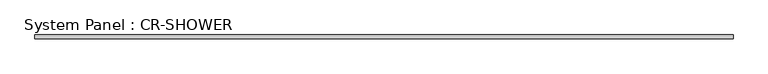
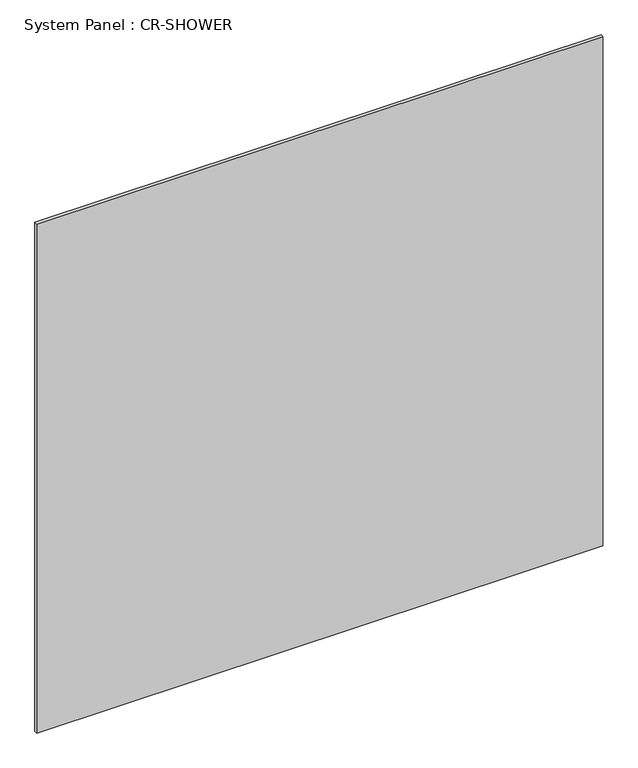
"""IFC4 building model written with IfcOpenShell, lengths in millimetres: plate geometry, System Panel : CR-SHOWER."""

from ifc_helpers import new_model, si_unit, origin, origin_with_axes, place, context, project, spatial, polyline, outline, extrude, source, transform, mapped, element, save


def system_panel_cr_shower_91adf229(model_context):
    return source(origin(), model_context, "Body", "SweptSolid", [
        extrude(outline(polyline([(1183.7399648, -12.45), (-1183.7399648, -12.45), (-1183.7399648, 0.05), (1183.7399648, 0.05), (1183.7399648, -12.45)])), origin_with_axes(), (0.0, 0.0, 1.0), 2250.0),
    ])


if __name__ == "__main__":
    model = new_model("IFC4")
    model_context = context("Model", 3, world=origin())
    ifc_project = project(units=[si_unit("LENGTHUNIT", "METRE", prefix="MILLI")], contexts=[model_context])
    site = spatial("IfcSite", under=ifc_project)
    building = spatial("IfcBuilding", under=site)
    placement = place(None, origin())
    system_panel_cr_shower_shape = system_panel_cr_shower_91adf229(model_context)
    element("IfcPlate", 1, ObjectType="System Panel : CR-SHOWER", at=placement, inside=building, context=model_context, shape_type="MappedRepresentation", body=[
        mapped(system_panel_cr_shower_shape, transform((0.0, 0.0, 0.0), x_axis=(1.0, 0.0, 0.0), y_axis=(0.0, 1.0, 0.0), z_axis=(0.0, 0.0, 1.0))),
    ])
    save(model, "model.ifc")
